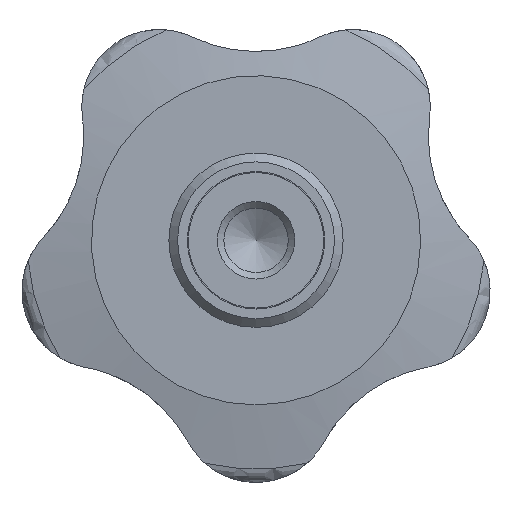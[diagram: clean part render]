
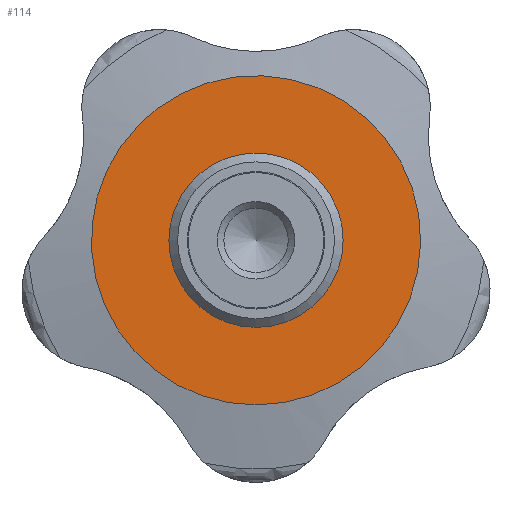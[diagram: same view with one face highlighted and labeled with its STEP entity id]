
A CAD part, front view. The second image highlights one B-rep face of the part: STEP entity #114.
In plain terms, the highlighted planar face has unit normal (0, -1, 0).
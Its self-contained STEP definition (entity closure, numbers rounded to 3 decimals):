
#114 = ADVANCED_FACE( '', ( #211, #212 ), #213, .F. );
#211 = FACE_BOUND( '', #348, .T. );
#212 = FACE_OUTER_BOUND( '', #349, .T. );
#213 = PLANE( '', #350 );
#348 = EDGE_LOOP( '', ( #665 ) );
#349 = EDGE_LOOP( '', ( #666 ) );
#350 = AXIS2_PLACEMENT_3D( '', #667, #668, #669 );
#665 = ORIENTED_EDGE( '', *, *, #800, .F. );
#666 = ORIENTED_EDGE( '', *, *, #760, .T. );
#667 = CARTESIAN_POINT( '', ( 17., 17., 0. ) );
#668 = DIRECTION( '', ( 0., 1., 0. ) );
#669 = DIRECTION( '', ( 0., 0., 1. ) );
#760 = EDGE_CURVE( '', #913, #913, #914, .T. );
#800 = EDGE_CURVE( '', #973, #973, #974, .T. );
#913 = VERTEX_POINT( '', #1606 );
#914 = CIRCLE( '', #1607, 17. );
#973 = VERTEX_POINT( '', #1893 );
#974 = CIRCLE( '', #1894, 9. );
#1606 = CARTESIAN_POINT( '', ( 0., 17., -17. ) );
#1607 = AXIS2_PLACEMENT_3D( '', #1952, #1953, #1954 );
#1893 = CARTESIAN_POINT( '', ( 0., 17., -9. ) );
#1894 = AXIS2_PLACEMENT_3D( '', #2008, #2009, #2010 );
#1952 = CARTESIAN_POINT( '', ( 0., 17., 0. ) );
#1953 = DIRECTION( '', ( 0., -1., 0. ) );
#1954 = DIRECTION( '', ( 0., 0., -1. ) );
#2008 = CARTESIAN_POINT( '', ( 0., 17., 0. ) );
#2009 = DIRECTION( '', ( 0., -1., 0. ) );
#2010 = DIRECTION( '', ( 0., 0., -1. ) );
